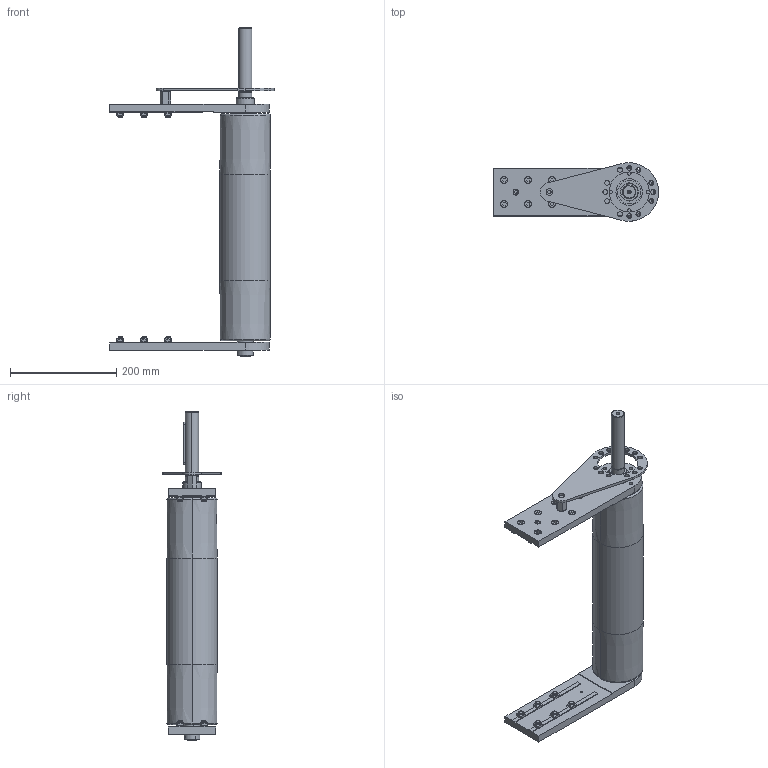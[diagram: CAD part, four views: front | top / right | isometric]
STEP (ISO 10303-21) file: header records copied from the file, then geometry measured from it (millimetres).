
FILE_DESCRIPTION (( 'STEP AP203' ), '1' );
FILE_NAME ('084.095.KD.63.400.STEP', '2014-07-30T15:30:22', ( '' ), ( '' ), 'SwSTEP 2.0', 'SolidWorks 2012', '' );
FILE_SCHEMA (( 'CONFIG_CONTROL_DESIGN' ));
Length unit declared in the file: millimetre
Products named in the file (15): 084.095.KD.63.400; Circlip DIN 471 - 30 x 1.5_Circlip DIN 471 - 30 x 1.5; CHIAVETTE_A 8x7x80 UNI 6604-69; 084.802.019_084.802.019; 084.810.003; 084.808.002_084.808.002; 084.808.003_084.808.003; 084.812.003; 084.816.107_084.816.107<A macchina>; 084.302.000 DADI ALUSIC 13x13_084.302.004; 084.301.000 VITI ALUSIC_084.301.003; 084.802.034_084.802.034; 084.812.004; 084.802.027; 084.808.005-1
Assembly tree (38 placements, depth 2):
  084.095.KD.63.400
    084.808.005-1
    084.802.027
    084.812.004
    084.802.034_084.802.034
    084.301.000 VITI ALUSIC_084.301.003  x12
    084.302.000 DADI ALUSIC 13x13_084.302.004  x12
    084.816.107_084.816.107<A macchina>
    084.812.003
    084.808.003_084.808.003
    084.808.002_084.808.002
    084.810.003  x2
    084.802.019_084.802.019
    CHIAVETTE_A 8x7x80 UNI 6604-69
    Circlip DIN 471 - 30 x 1.5_Circlip DIN 471 - 30 x 1.5  x2
Bounding box: 310 x 110 x 617.5 mm (x, y, z)
Volume: 1799511.3 mm3; surface area: 701981.1 mm2
Topology: 43 solids, 44 shells, 965 faces, 2392 edges, 1556 vertices
Faces by surface type: plane 408, cylinder 345, torus 92, cone 63, bspline 48, sphere 9
Entity records: 21665 total; most frequent: CARTESIAN_POINT 4354, DIRECTION 3268, ORIENTED_EDGE 3064, EDGE_CURVE 1532, AXIS2_PLACEMENT_3D 1291, VERTEX_POINT 1001, EDGE_LOOP 729, CIRCLE 703
